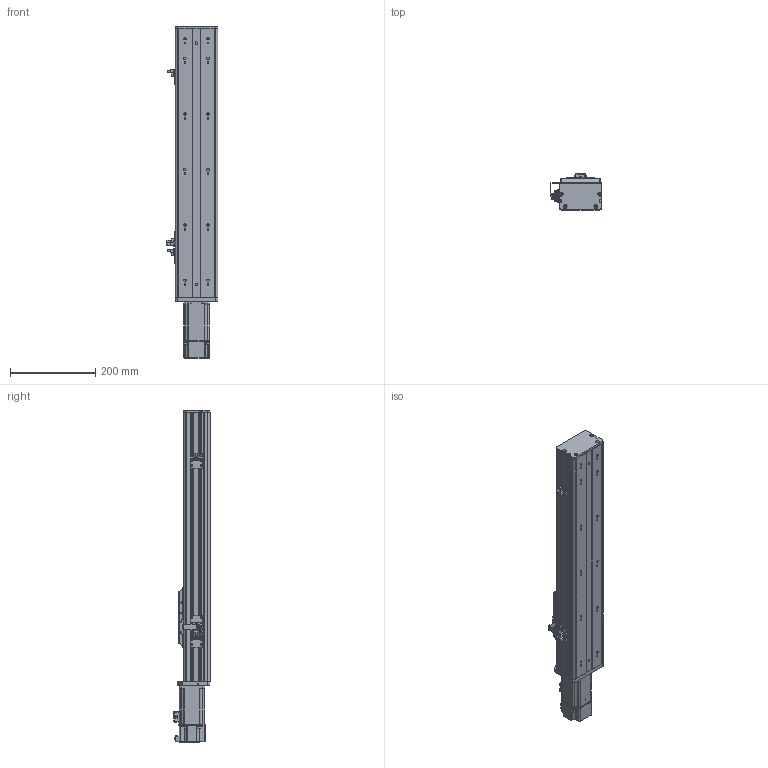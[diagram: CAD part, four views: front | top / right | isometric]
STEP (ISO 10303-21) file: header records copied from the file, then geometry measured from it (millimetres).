
FILE_DESCRIPTION (( 'STEP AP203' ), '1' );
FILE_NAME ('BOSW100-400-1610-1P-CM-M400W-O-S3（方程式2016）.step', '2020-10-10T06:32:13', ( '' ), ( '' ), 'SwSTEP 2.0', 'SolidWorks 2016', '' );
FILE_SCHEMA (( 'CONFIG_CONTROL_DESIGN' ));
Length unit declared in the file: millimetre
Products named in the file (13): BOSW-100-綴裔啣; BOSW-100-1P-CM-宽轨-侧板-400客户图纸; BOSW&TW-100-詩湍揤沭(陔賦凳); BOSW-100-CM-宽轨-三菱M200W&400W马达板(新结构); 新结构AIMSW-100-1P-宽&高轨共用-滑动座上组件; BOSW-100-1P-CM-400諦誧芞; BOSW-100-1P-CM-宽轨-钢带-400客户图纸; BOSW&TW-100-俋离覜茼え; BOSW100-400-1610-1P-CM-M400W-O-S3（方程式2016）; 俋境嫖覜嘐隅啣; S400W(SMA-L040); 放大器内置U型微型光电传感器PM-L65; BOSW&TW-100-1P-賑雄釱欶
Assembly tree (18 placements, depth 2):
  BOSW100-400-1610-1P-CM-M400W-O-S3（方程式2016）
    BOSW-100-1P-CM-400諦誧芞
    BOSW-100-綴裔啣
    新结构AIMSW-100-1P-宽&高轨共用-滑动座上组件
    S400W(SMA-L040)
    BOSW&TW-100-詩湍揤沭(陔賦凳)  x2
    BOSW&TW-100-1P-賑雄釱欶
    BOSW&TW-100-俋离覜茼え
    俋境嫖覜嘐隅啣  x3
    放大器内置U型微型光电传感器PM-L65  x3
    BOSW-100-CM-宽轨-三菱M200W&400W马达板(新结构)
    BOSW-100-1P-CM-宽轨-侧板-400客户图纸  x2
    BOSW-100-1P-CM-宽轨-钢带-400客户图纸
Bounding box: 120.9 x 85.5 x 777.8 mm (x, y, z)
Volume: 1551247.9 mm3; surface area: 705547.4 mm2
Topology: 18 solids, 18 shells, 2495 faces, 6576 edges, 4193 vertices
Faces by surface type: plane 1222, cylinder 789, bspline 271, cone 165, torus 36, sphere 12
Entity records: 68108 total; most frequent: CARTESIAN_POINT 20534, ORIENTED_EDGE 9692, DIRECTION 9404, EDGE_CURVE 4846, AXIS2_PLACEMENT_3D 3346, VERTEX_POINT 3095, VECTOR 2712, LINE 2712
